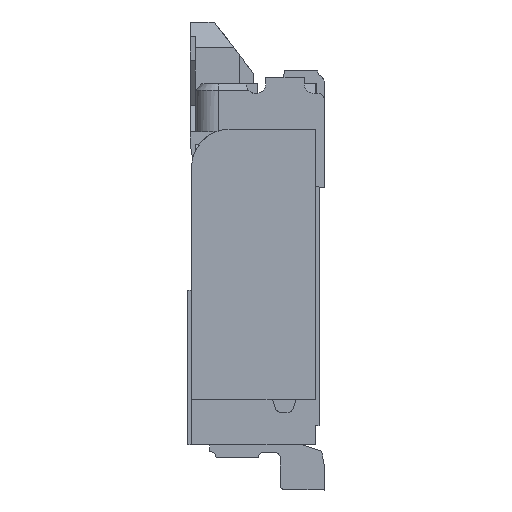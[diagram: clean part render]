
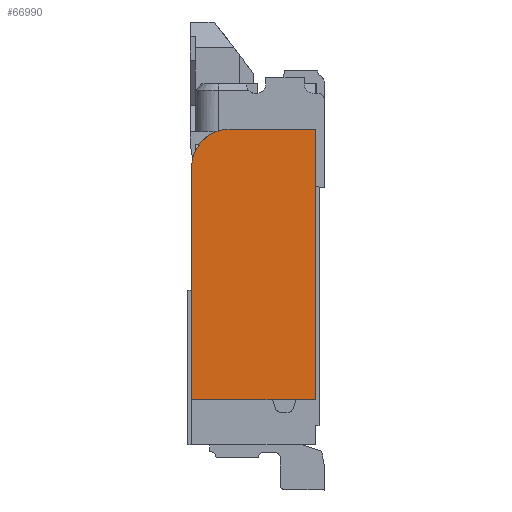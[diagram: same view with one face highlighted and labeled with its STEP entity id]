
A CAD part, left-side view. The second image highlights one B-rep face of the part: STEP entity #66990.
In plain terms, the highlighted planar face has unit normal (-1, 0, 0).
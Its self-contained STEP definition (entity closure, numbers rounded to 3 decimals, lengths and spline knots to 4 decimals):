
#19=CARTESIAN_POINT('',(-6.3,0.1306,0.75));
#20=DIRECTION('',(1.,0.,0.));
#21=DIRECTION('',(0.,1.,0.));
#22=AXIS2_PLACEMENT_3D('',#19,#20,#21);
#35=DIRECTION('',(0.,0.,-1.));
#36=VECTOR('',#35,1.8);
#37=CARTESIAN_POINT('',(-6.3,0.4306,0.75));
#38=LINE('',#37,#36);
#49=DIRECTION('',(0.,-1.,0.));
#50=VECTOR('',#49,0.96);
#51=CARTESIAN_POINT('',(-6.3,0.4306,-1.05));
#52=LINE('',#51,#50);
#119=DIRECTION('',(0.,0.,1.));
#120=VECTOR('',#119,2.1);
#121=CARTESIAN_POINT('',(-6.3,-0.5294,-1.05));
#122=LINE('',#121,#120);
#54117=DIRECTION('',(0.,1.,0.));
#54118=VECTOR('',#54117,0.66);
#54119=CARTESIAN_POINT('',(-6.3,-0.5294,1.05));
#54120=LINE('',#54119,#54118);
#56686=CARTESIAN_POINT('',(-6.3,0.4306,0.75));
#56687=CARTESIAN_POINT('',(-6.3,0.1306,1.05));
#56688=VERTEX_POINT('',#56686);
#56689=VERTEX_POINT('',#56687);
#56690=CARTESIAN_POINT('',(-6.3,-0.5294,-1.05));
#56691=CARTESIAN_POINT('',(-6.3,-0.5294,1.05));
#56692=VERTEX_POINT('',#56690);
#56693=VERTEX_POINT('',#56691);
#56694=CARTESIAN_POINT('',(-6.3,0.4306,-1.05));
#56695=VERTEX_POINT('',#56694);
#66973=CARTESIAN_POINT('',(-6.3,-0.0494,0.));
#66974=DIRECTION('',(1.,0.,0.));
#66975=DIRECTION('',(0.,0.,-1.));
#66976=AXIS2_PLACEMENT_3D('',#66973,#66974,#66975);
#66977=PLANE('',#66976);
#66979=ORIENTED_EDGE('',*,*,#66978,.T.);
#66981=ORIENTED_EDGE('',*,*,#66980,.F.);
#66983=ORIENTED_EDGE('',*,*,#66982,.F.);
#66985=ORIENTED_EDGE('',*,*,#66984,.F.);
#66987=ORIENTED_EDGE('',*,*,#66986,.F.);
#66988=EDGE_LOOP('',(#66979,#66981,#66983,#66985,#66987));
#66989=FACE_OUTER_BOUND('',#66988,.F.);
#66990=ADVANCED_FACE('',(#66989),#66977,.F.);
#23=CIRCLE('',#22,0.3);
#66978=EDGE_CURVE('',#56688,#56689,#23,.T.);
#66980=EDGE_CURVE('',#56693,#56689,#54120,.T.);
#66982=EDGE_CURVE('',#56692,#56693,#122,.T.);
#66984=EDGE_CURVE('',#56695,#56692,#52,.T.);
#66986=EDGE_CURVE('',#56688,#56695,#38,.T.);
